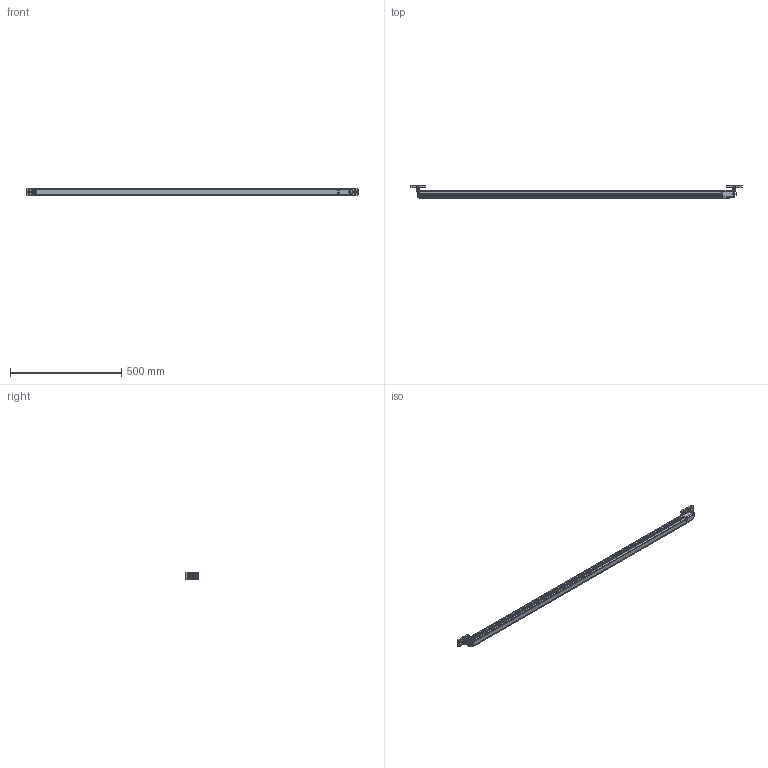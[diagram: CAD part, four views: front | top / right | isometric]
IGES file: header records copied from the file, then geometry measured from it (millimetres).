
Global section: file name: No Iges File Name specified; native system: Autodesk Inventor 2009; preprocessor: AutoDesk Inventor Iges Exporter R2009; author: seisen; date: 20121207.093202; units: millimetre
Bounding box: 1489.91 x 55.35 x 34 mm (x, y, z)
Volume: 1311513.9 mm3; surface area: 250868.9 mm2
Topology: 21 solids, 21 shells, 867 faces, 2297 edges, 1454 vertices
Faces by surface type: plane 350, cylinder 171, revolution 158, bspline 76, torus 49, cone 45, sphere 18
